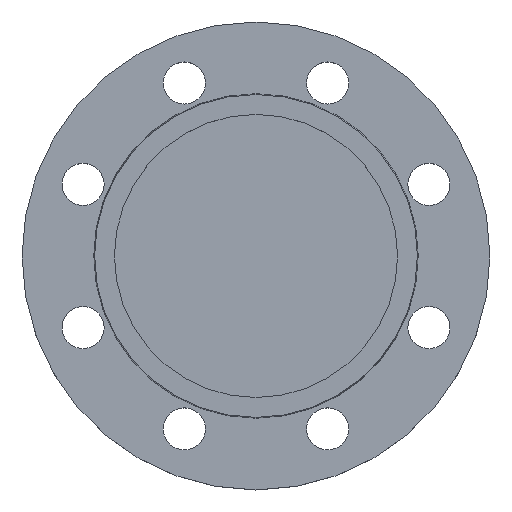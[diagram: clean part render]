
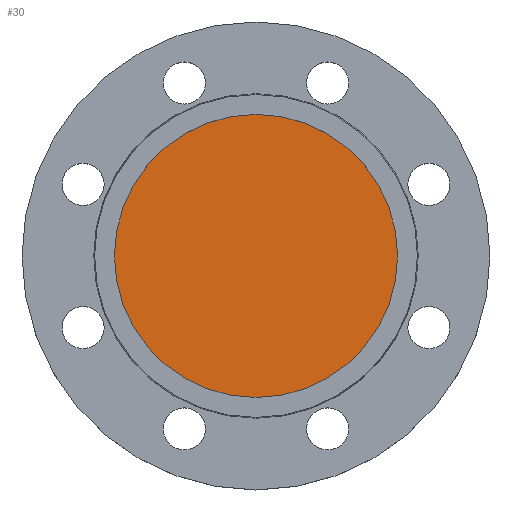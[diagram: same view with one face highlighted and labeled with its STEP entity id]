
A CAD part, top view. The second image highlights one B-rep face of the part: STEP entity #30.
In plain terms, the highlighted planar face has unit normal (0, 0, 1).
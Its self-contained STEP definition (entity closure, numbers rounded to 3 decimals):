
#30 = ADVANCED_FACE ( 'NONE', ( #716 ), #719, .T. ) ;
#61 = AXIS2_PLACEMENT_3D ( 'NONE', #720, #721, #724 ) ;
#66 = AXIS2_PLACEMENT_3D ( 'NONE', #248, #247, #246 ) ;
#93 = CIRCLE ( 'NONE', #66, 60.5 ) ;
#167 = DIRECTION ( 'NONE',  ( -1., 0., 0. ) ) ;
#235 = CARTESIAN_POINT ( 'NONE',  ( 60.5, 0., -4. ) ) ;
#246 = DIRECTION ( 'NONE',  ( -1., 0., 0. ) ) ;
#247 = DIRECTION ( 'NONE',  ( 0., 0., -1. ) ) ;
#248 = CARTESIAN_POINT ( 'NONE',  ( 0., 0., -4. ) ) ;
#304 = CARTESIAN_POINT ( 'NONE',  ( -60.5, 0., -4. ) ) ;
#310 = AXIS2_PLACEMENT_3D ( 'NONE', #1124, #695, #167 ) ;
#321 = CIRCLE ( 'NONE', #310, 60.5 ) ;
#494 = ORIENTED_EDGE ( 'NONE', *, *, #975, .F. ) ;
#695 = DIRECTION ( 'NONE',  ( 0., 0., -1. ) ) ;
#716 = FACE_OUTER_BOUND ( 'NONE', #1067, .T. ) ;
#719 = PLANE ( 'NONE',  #61 ) ;
#720 = CARTESIAN_POINT ( 'NONE',  ( 60.5, 0., -4. ) ) ;
#721 = DIRECTION ( 'NONE',  ( 0., 0., 1. ) ) ;
#724 = DIRECTION ( 'NONE',  ( 1., 0., 0. ) ) ;
#853 = VERTEX_POINT ( 'NONE', #304 ) ;
#975 = EDGE_CURVE ( 'NONE', #853, #990, #93, .T. ) ;
#990 = VERTEX_POINT ( 'NONE', #235 ) ;
#1056 = ORIENTED_EDGE ( 'NONE', *, *, #1103, .F. ) ;
#1067 = EDGE_LOOP ( 'NONE', ( #494, #1056 ) ) ;
#1103 = EDGE_CURVE ( 'NONE', #990, #853, #321, .T. ) ;
#1124 = CARTESIAN_POINT ( 'NONE',  ( 0., 0., -4. ) ) ;
